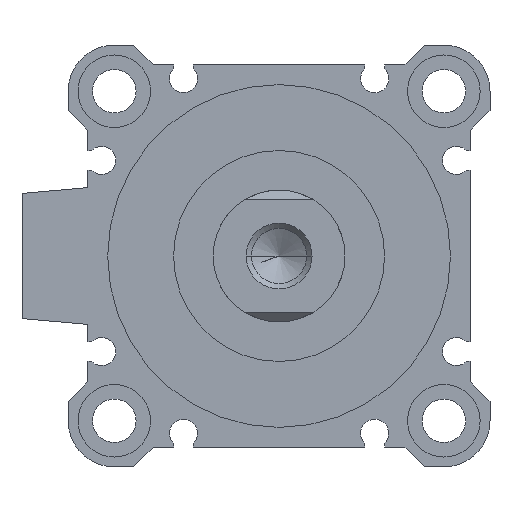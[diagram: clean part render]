
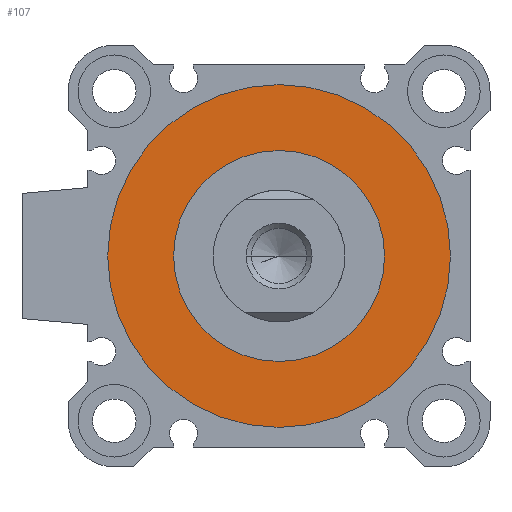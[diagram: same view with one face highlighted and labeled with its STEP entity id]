
A CAD part, left-side view. The second image highlights one B-rep face of the part: STEP entity #107.
In plain terms, the highlighted planar face has unit normal (-1, 0, 0).
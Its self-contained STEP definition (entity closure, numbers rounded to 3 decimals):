
#107 = ADVANCED_FACE ( 'NONE', ( #1692, #1407 ), #3239, .F. ) ;
#209 = DIRECTION ( 'NONE',  ( 1., 0., 0. ) ) ;
#248 = CARTESIAN_POINT ( 'NONE',  ( 3., 0., -26. ) ) ;
#303 = EDGE_LOOP ( 'NONE', ( #1999, #659 ) ) ;
#603 = DIRECTION ( 'NONE',  ( 0., 1., 0. ) ) ;
#659 = ORIENTED_EDGE ( 'NONE', *, *, #3422, .T. ) ;
#674 = CARTESIAN_POINT ( 'NONE',  ( 3., 0., -16. ) ) ;
#735 = DIRECTION ( 'NONE',  ( 1., 0., 0. ) ) ;
#857 = ORIENTED_EDGE ( 'NONE', *, *, #4556, .F. ) ;
#985 = CIRCLE ( 'NONE', #3818, 16. ) ;
#1116 = CARTESIAN_POINT ( 'NONE',  ( 3., 0., 0. ) ) ;
#1144 = DIRECTION ( 'NONE',  ( 1., 0., 0. ) ) ;
#1306 = CARTESIAN_POINT ( 'NONE',  ( 3., 0., 0. ) ) ;
#1407 = FACE_BOUND ( 'NONE', #303, .T. ) ;
#1557 = AXIS2_PLACEMENT_3D ( 'NONE', #4598, #1144, #3886 ) ;
#1692 = FACE_OUTER_BOUND ( 'NONE', #1783, .T. ) ;
#1783 = EDGE_LOOP ( 'NONE', ( #2083, #857 ) ) ;
#1843 = DIRECTION ( 'NONE',  ( 0., 0., -1. ) ) ;
#1999 = ORIENTED_EDGE ( 'NONE', *, *, #3787, .T. ) ;
#2083 = ORIENTED_EDGE ( 'NONE', *, *, #4891, .F. ) ;
#2532 = AXIS2_PLACEMENT_3D ( 'NONE', #2618, #3427, #3804 ) ;
#2618 = CARTESIAN_POINT ( 'NONE',  ( 3., 0., 0. ) ) ;
#2666 = DIRECTION ( 'NONE',  ( 0., 0., -1. ) ) ;
#2763 = AXIS2_PLACEMENT_3D ( 'NONE', #1116, #735, #2666 ) ;
#2781 = CIRCLE ( 'NONE', #2532, 26. ) ;
#3239 = PLANE ( 'NONE',  #4757 ) ;
#3273 = VERTEX_POINT ( 'NONE', #4310 ) ;
#3324 = VERTEX_POINT ( 'NONE', #4792 ) ;
#3422 = EDGE_CURVE ( 'NONE', #3516, #3324, #985, .T. ) ;
#3427 = DIRECTION ( 'NONE',  ( 1., 0., 0. ) ) ;
#3516 = VERTEX_POINT ( 'NONE', #674 ) ;
#3597 = VERTEX_POINT ( 'NONE', #248 ) ;
#3787 = EDGE_CURVE ( 'NONE', #3324, #3516, #3812, .T. ) ;
#3804 = DIRECTION ( 'NONE',  ( 0., 0., -1. ) ) ;
#3812 = CIRCLE ( 'NONE', #2763, 16. ) ;
#3818 = AXIS2_PLACEMENT_3D ( 'NONE', #4502, #4944, #1843 ) ;
#3886 = DIRECTION ( 'NONE',  ( 0., 0., -1. ) ) ;
#4224 = CIRCLE ( 'NONE', #1557, 26. ) ;
#4310 = CARTESIAN_POINT ( 'NONE',  ( 3., 0., 26. ) ) ;
#4502 = CARTESIAN_POINT ( 'NONE',  ( 3., 0., 0. ) ) ;
#4556 = EDGE_CURVE ( 'NONE', #3597, #3273, #4224, .T. ) ;
#4598 = CARTESIAN_POINT ( 'NONE',  ( 3., 0., 0. ) ) ;
#4757 = AXIS2_PLACEMENT_3D ( 'NONE', #1306, #209, #603 ) ;
#4792 = CARTESIAN_POINT ( 'NONE',  ( 3., 0., 16. ) ) ;
#4891 = EDGE_CURVE ( 'NONE', #3273, #3597, #2781, .T. ) ;
#4944 = DIRECTION ( 'NONE',  ( 1., 0., 0. ) ) ;
